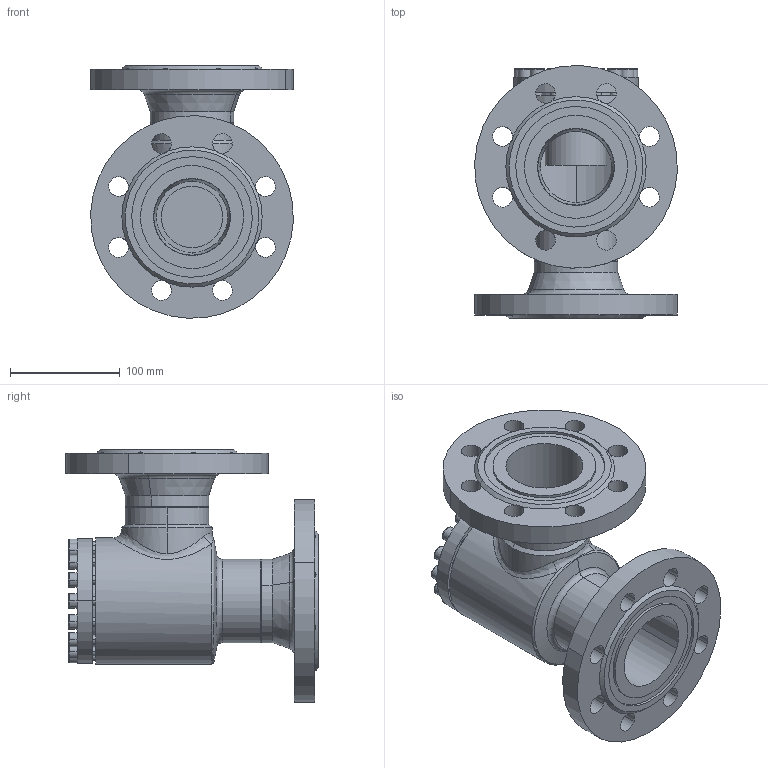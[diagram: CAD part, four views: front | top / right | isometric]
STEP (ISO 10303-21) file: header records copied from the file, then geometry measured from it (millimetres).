
FILE_DESCRIPTION (( 'STEP AP214' ), '1' );
FILE_NAME ('RV28420D17-DN065_DIN-FL-N_PS40.STEP', '2006-04-28T05:29:30', ( 'Herr Grams' ), ( 'AWP GmbH' ), 'SwSTEP 2.0', 'SolidWorks 2002296', '' );
FILE_SCHEMA (( 'AUTOMOTIVE_DESIGN' ));
Length unit declared in the file: millimetre
Products named in the file (9): RV28420D17-DN065_DIN-FL-N_PS40; RV28300K17_Deck+Schr-DN065_Standard; Deckel28300K17-DN65_Standard; Zylinderschraube-DIN912_M 8x 25; Gehäuse-kpl16420-DN065_DIN_PS40_Standard; Gehäuse16400-DN065_Standard; Flansch-DIN-Nut_PS40_DIN-Flansch-DN065_PS40-Nut; bead-DN065-4_Standard; bead-DN065-3_Standard
Assembly tree (24 placements, depth 3):
  RV28420D17-DN065_DIN-FL-N_PS40
    Gehäuse-kpl16420-DN065_DIN_PS40_Standard
      bead-DN065-3_Standard
      Flansch-DIN-Nut_PS40_DIN-Flansch-DN065_PS40-Nut  x2
      bead-DN065-4_Standard
      Gehäuse16400-DN065_Standard
    RV28300K17_Deck+Schr-DN065_Standard
      Deckel28300K17-DN65_Standard
      Zylinderschraube-DIN912_M 8x 25  x16
Bounding box: 184.82 x 230.41 x 230.41 mm (x, y, z)
Volume: 1707676.6 mm3; surface area: 344237.2 mm2
Topology: 22 solids, 22 shells, 464 faces, 1078 edges, 687 vertices
Faces by surface type: plane 188, cylinder 176, cone 50, torus 40, bspline 10
Entity records: 16505 total; most frequent: CARTESIAN_POINT 11991, DIRECTION 916, ORIENTED_EDGE 788, AXIS2_PLACEMENT_3D 395, EDGE_CURVE 394, VERTEX_POINT 253, CIRCLE 220, EDGE_LOOP 217
